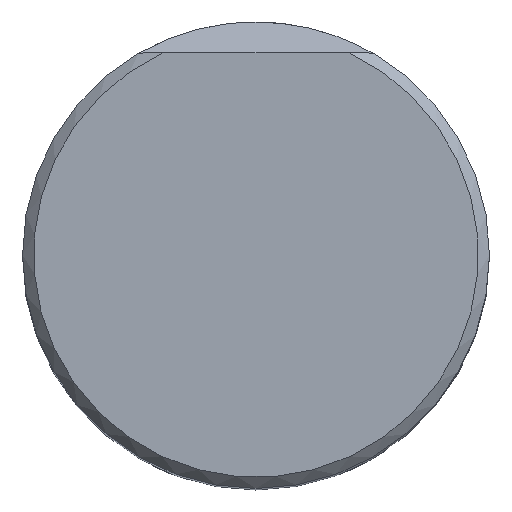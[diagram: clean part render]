
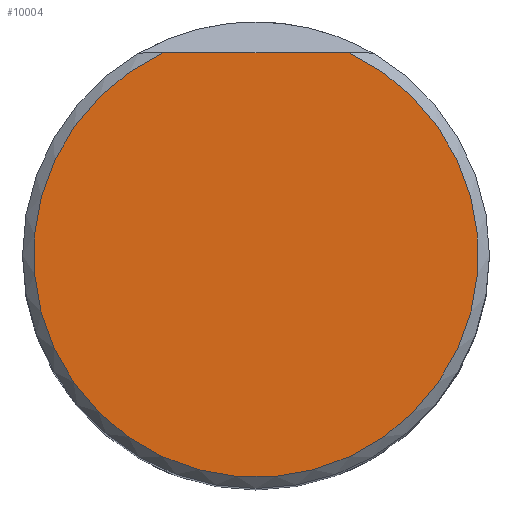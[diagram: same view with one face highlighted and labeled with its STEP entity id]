
A CAD part, top view. The second image highlights one B-rep face of the part: STEP entity #10004.
In plain terms, the highlighted planar face has unit normal (0, 0, 1).
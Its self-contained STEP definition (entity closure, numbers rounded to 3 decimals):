
#1273=PLANE('',#45586);
#5594=LINE('',#66483,#7628);
#7628=VECTOR('',#50891,1.);
#10004=ADVANCED_FACE('',(#12745),#1273,.T.);
#12745=FACE_OUTER_BOUND('',#15194,.T.);
#15194=EDGE_LOOP('',(#18943,#18944));
#18943=ORIENTED_EDGE('',*,*,#36771,.T.);
#18944=ORIENTED_EDGE('',*,*,#36772,.F.);
#32217=VERTEX_POINT('',#66481);
#32218=VERTEX_POINT('',#66482);
#36771=EDGE_CURVE('',#32217,#32218,#42913,.T.);
#36772=EDGE_CURVE('',#32217,#32218,#5594,.T.);
#42913=CIRCLE('',#45585,15.236);
#45585=AXIS2_PLACEMENT_3D('',#66480,#50889,#50890);
#45586=AXIS2_PLACEMENT_3D('',#66484,#50892,#50893);
#50889=DIRECTION('',(0.,0.,1.));
#50890=DIRECTION('',(0.,-1.,0.));
#50891=DIRECTION('',(1.,0.,0.));
#50892=DIRECTION('',(0.,0.,1.));
#50893=DIRECTION('',(0.,1.,0.));
#66480=CARTESIAN_POINT('',(0.,0.,0.));
#66481=CARTESIAN_POINT('',(-6.373,13.839,0.));
#66482=CARTESIAN_POINT('',(6.373,13.839,0.));
#66483=CARTESIAN_POINT('',(-15.996,13.839,0.));
#66484=CARTESIAN_POINT('',(0.,0.,0.));
